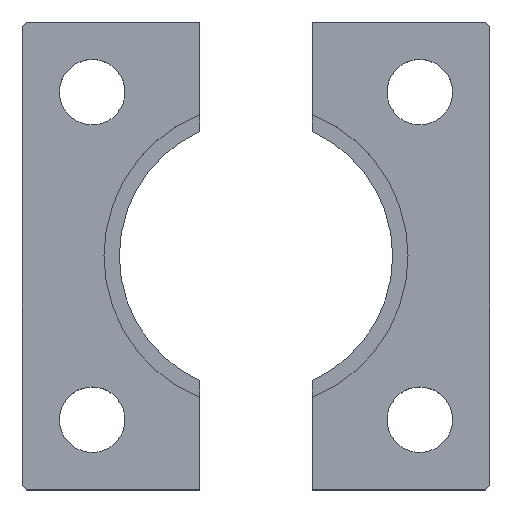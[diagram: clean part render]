
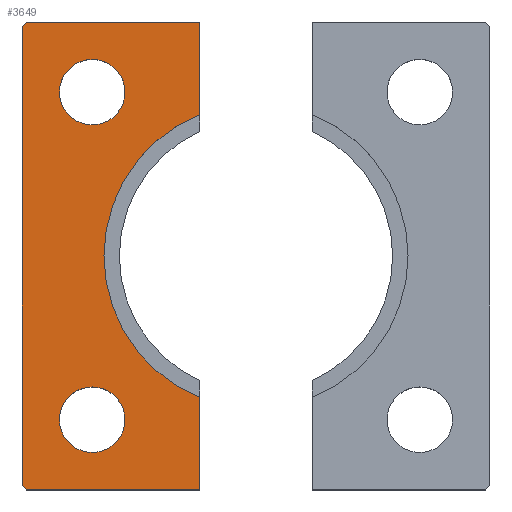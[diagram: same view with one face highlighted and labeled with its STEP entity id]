
A CAD part, top view. The second image highlights one B-rep face of the part: STEP entity #3649.
In plain terms, the highlighted planar face has unit normal (0, 0, 1).
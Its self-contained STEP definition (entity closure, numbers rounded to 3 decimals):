
#29=CIRCLE('',#3779,16.25);
#31=CIRCLE('',#3783,3.5);
#32=CIRCLE('',#3784,3.5);
#57=FACE_BOUND('',#544,.T.);
#58=FACE_BOUND('',#545,.T.);
#142=PLANE('',#3782);
#331=FACE_OUTER_BOUND('',#543,.T.);
#543=EDGE_LOOP('',(#3255,#3256,#3257,#3258,#3259,#3260,#3261,#3262));
#544=EDGE_LOOP('',(#3263));
#545=EDGE_LOOP('',(#3264));
#868=LINE('',#6548,#1206);
#869=LINE('',#6550,#1207);
#870=LINE('',#6552,#1208);
#871=LINE('',#6554,#1209);
#872=LINE('',#6556,#1210);
#873=LINE('',#6558,#1211);
#874=LINE('',#6559,#1212);
#1206=VECTOR('',#4287,10.);
#1207=VECTOR('',#4288,10.);
#1208=VECTOR('',#4289,10.);
#1209=VECTOR('',#4290,10.);
#1210=VECTOR('',#4291,10.);
#1211=VECTOR('',#4292,10.);
#1212=VECTOR('',#4293,10.);
#1750=VERTEX_POINT('',#6533);
#1752=VERTEX_POINT('',#6537);
#1755=VERTEX_POINT('',#6547);
#1756=VERTEX_POINT('',#6549);
#1757=VERTEX_POINT('',#6551);
#1758=VERTEX_POINT('',#6553);
#1759=VERTEX_POINT('',#6555);
#1760=VERTEX_POINT('',#6557);
#1761=VERTEX_POINT('',#6560);
#1762=VERTEX_POINT('',#6562);
#2262=EDGE_CURVE('',#1750,#1752,#29,.T.);
#2266=EDGE_CURVE('',#1755,#1752,#868,.T.);
#2267=EDGE_CURVE('',#1756,#1755,#869,.T.);
#2268=EDGE_CURVE('',#1757,#1756,#870,.T.);
#2269=EDGE_CURVE('',#1758,#1757,#871,.T.);
#2270=EDGE_CURVE('',#1759,#1758,#872,.T.);
#2271=EDGE_CURVE('',#1760,#1759,#873,.T.);
#2272=EDGE_CURVE('',#1750,#1760,#874,.T.);
#2273=EDGE_CURVE('',#1761,#1761,#31,.T.);
#2274=EDGE_CURVE('',#1762,#1762,#32,.T.);
#3255=ORIENTED_EDGE('',*,*,#2262,.T.);
#3256=ORIENTED_EDGE('',*,*,#2266,.F.);
#3257=ORIENTED_EDGE('',*,*,#2267,.F.);
#3258=ORIENTED_EDGE('',*,*,#2268,.F.);
#3259=ORIENTED_EDGE('',*,*,#2269,.F.);
#3260=ORIENTED_EDGE('',*,*,#2270,.F.);
#3261=ORIENTED_EDGE('',*,*,#2271,.F.);
#3262=ORIENTED_EDGE('',*,*,#2272,.F.);
#3263=ORIENTED_EDGE('',*,*,#2273,.T.);
#3264=ORIENTED_EDGE('',*,*,#2274,.T.);
#3649=ADVANCED_FACE('',(#331,#57,#58),#142,.T.);
#3779=AXIS2_PLACEMENT_3D('',#6539,#4277,#4278);
#3782=AXIS2_PLACEMENT_3D('',#6546,#4285,#4286);
#3783=AXIS2_PLACEMENT_3D('',#6561,#4294,#4295);
#3784=AXIS2_PLACEMENT_3D('',#6563,#4296,#4297);
#4277=DIRECTION('center_axis',(0.,0.,-1.));
#4278=DIRECTION('ref_axis',(-1.,0.,0.));
#4285=DIRECTION('center_axis',(0.,0.,1.));
#4286=DIRECTION('ref_axis',(1.,0.,0.));
#4287=DIRECTION('',(0.,-1.,0.));
#4288=DIRECTION('',(1.,0.,0.));
#4289=DIRECTION('',(0.707,0.707,0.));
#4290=DIRECTION('',(0.,1.,0.));
#4291=DIRECTION('',(-0.707,0.707,0.));
#4292=DIRECTION('',(-1.,0.,0.));
#4293=DIRECTION('',(0.,-1.,0.));
#4294=DIRECTION('center_axis',(0.,0.,-1.));
#4295=DIRECTION('ref_axis',(-1.,0.,0.));
#4296=DIRECTION('center_axis',(0.,0.,-1.));
#4297=DIRECTION('ref_axis',(-1.,0.,0.));
#6533=CARTESIAN_POINT('',(-6.,-15.102,7.));
#6537=CARTESIAN_POINT('',(-6.,15.102,7.));
#6539=CARTESIAN_POINT('Origin',(0.,0.,7.));
#6546=CARTESIAN_POINT('Origin',(-15.459,0.,
7.));
#6547=CARTESIAN_POINT('',(-6.,25.,7.));
#6548=CARTESIAN_POINT('',(-6.,-25.,7.));
#6549=CARTESIAN_POINT('',(-24.5,25.,7.));
#6550=CARTESIAN_POINT('',(-6.,25.,7.));
#6551=CARTESIAN_POINT('',(-25.,24.5,7.));
#6552=CARTESIAN_POINT('',(-24.5,25.,7.));
#6553=CARTESIAN_POINT('',(-25.,-24.5,7.));
#6554=CARTESIAN_POINT('',(-25.,24.5,7.));
#6555=CARTESIAN_POINT('',(-24.5,-25.,7.));
#6556=CARTESIAN_POINT('',(-25.,-24.5,7.));
#6557=CARTESIAN_POINT('',(-6.,-25.,7.));
#6558=CARTESIAN_POINT('',(-24.5,-25.,7.));
#6559=CARTESIAN_POINT('',(-6.,-25.,7.));
#6560=CARTESIAN_POINT('',(-14.,17.5,7.));
#6561=CARTESIAN_POINT('Origin',(-17.5,17.5,7.));
#6562=CARTESIAN_POINT('',(-14.,-17.5,7.));
#6563=CARTESIAN_POINT('Origin',(-17.5,-17.5,7.));
